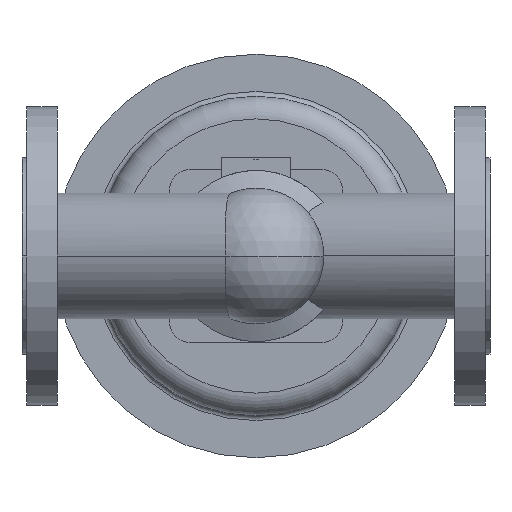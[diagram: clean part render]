
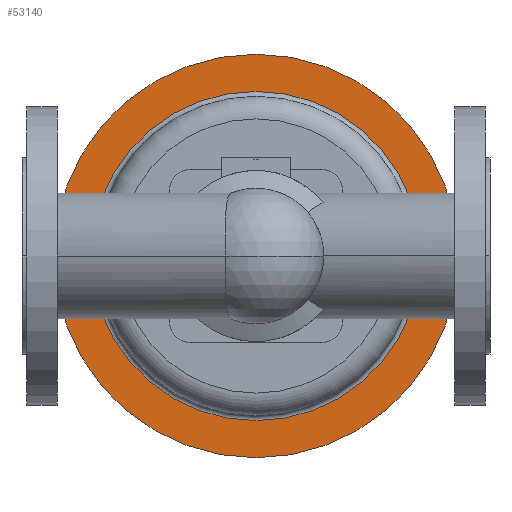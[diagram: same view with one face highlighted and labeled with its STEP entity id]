
A CAD part, front view. The second image highlights one B-rep face of the part: STEP entity #53140.
In plain terms, the highlighted planar face has unit normal (0, -1, 0).
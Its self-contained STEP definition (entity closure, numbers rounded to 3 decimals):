
#38250=CARTESIAN_POINT('',(270.,409.,0.));
#38260=VERTEX_POINT('',#38250);
#38420=CARTESIAN_POINT('',(20.,409.,0.));
#38430=VERTEX_POINT('',#38420);
#38460=CARTESIAN_POINT('',(145.,409.,0.));
#38470=DIRECTION('',(0.,1.,0.));
#38480=DIRECTION('',(1.,0.,0.));
#38490=AXIS2_PLACEMENT_3D('',#38460,#38470,#38480);
#38500=CIRCLE('',#38490,125.);
#38510=EDGE_CURVE('',#38260,#38430,#38500,.T.);
#38610=CARTESIAN_POINT('',(145.,409.,0.));
#38620=DIRECTION('',(0.,1.,0.));
#38630=DIRECTION('',(1.,0.,0.));
#38640=AXIS2_PLACEMENT_3D('',#38610,#38620,#38630);
#38650=CIRCLE('',#38640,102.);
#38660=CARTESIAN_POINT('',(145.,409.,102.));
#38670=VERTEX_POINT('',#38660);
#38680=CARTESIAN_POINT('',(247.,409.,0.));
#38690=VERTEX_POINT('',#38680);
#38700=EDGE_CURVE('',#38670,#38690,#38650,.T.);
#38950=CARTESIAN_POINT('',(43.,409.,0.));
#38960=VERTEX_POINT('',#38950);
#38990=EDGE_CURVE('',#38960,#38670,#38650,.T.);
#52980=CARTESIAN_POINT('',(258.5,409.,0.));
#52990=DIRECTION('',(0.,-1.,0.));
#53000=DIRECTION('',(-1.,0.,0.));
#53010=AXIS2_PLACEMENT_3D('',#52980,#52990,#53000);
#53020=PLANE('',#53010);
#53030=EDGE_CURVE('',#38430,#38260,#38500,.T.);
#53040=ORIENTED_EDGE('',*,*,#53030,.F.);
#53050=ORIENTED_EDGE('',*,*,#38510,.F.);
#53060=EDGE_LOOP('',(#53050,#53040));
#53070=FACE_OUTER_BOUND('',#53060,.T.);
#53080=EDGE_CURVE('',#38690,#38960,#38650,.T.);
#53090=ORIENTED_EDGE('',*,*,#53080,.T.);
#53100=ORIENTED_EDGE('',*,*,#38700,.T.);
#53110=ORIENTED_EDGE('',*,*,#38990,.T.);
#53120=EDGE_LOOP('',(#53110,#53100,#53090));
#53130=FACE_BOUND('',#53120,.T.);
#53140=ADVANCED_FACE('',(#53070,#53130),#53020,.T.);
